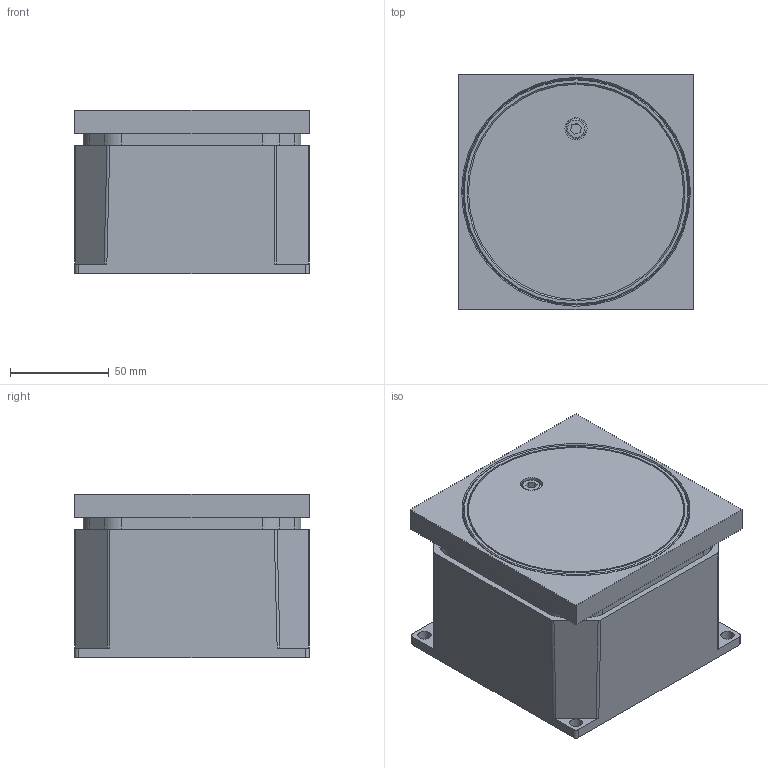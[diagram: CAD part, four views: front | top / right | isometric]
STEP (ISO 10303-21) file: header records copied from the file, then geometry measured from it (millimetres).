
FILE_DESCRIPTION(/* description */ (''),/* implementation_level */ '2;1');
FILE_NAME(/* name */ 'Fonto 4970W_geschlossen.stp',/* time_stamp */ '2023-11-07T08:56:09+01:00',/* author */ ('stangass'),/* organization */ (''),/* preprocessor_version */ 'ST-DEVELOPER v19.2',/* originating_system */ 'Autodesk Inventor 2023',/* authorisation */ '');
FILE_SCHEMA (('AUTOMOTIVE_DESIGN { 1 0 10303 214 3 1 1 }'));
Products named in the file (20): 1938993_3DINV; 1837450_3DINV; DIN 6799 - 8; 2241441_3DINV; DIN 7984 - M8 x 50; O_RING.118X2,5MM; 1938992_3DINV; DIN 562 - M6; 2040010_3DINV; DIN 125-1 - B 5,3; DIN 127 - A 5; DIN 912 - M5 x 8; #27448; DIN 912 - M3 x 6; 1939004_3DINV; 1939019_3DINV; DIN 705 - B6; DIN 912 - M6 x 60; 204009_3DINV; 2241439_3DINV
Assembly tree (33 placements, depth 2):
  1938993_3DINV
    1837450_3DINV
    DIN 6799 - 8  x4
    2241441_3DINV
    DIN 7984 - M8 x 50  x4
    O_RING.118X2,5MM
    1938992_3DINV
    DIN 562 - M6
    2040010_3DINV
    DIN 912 - M5 x 8  x3
    DIN 912 - M3 x 6  x5
    #27448  x3
    DIN 125-1 - B 5,3
    DIN 127 - A 5
    1939004_3DINV
    1939019_3DINV
    DIN 705 - B6
    DIN 912 - M6 x 60
    204009_3DINV
    2241439_3DINV
Bounding box: 119 x 119 x 83 mm (x, y, z)
Volume: 472259.2 mm3; surface area: 218802.8 mm2
Topology: 33 solids, 33 shells, 1002 faces, 2511 edges, 1599 vertices
Faces by surface type: plane 411, cylinder 376, bspline 82, cone 66, torus 53, sphere 14
Full cylindrical faces by diameter (mm): 1.25 x8, 1.5 x1, 2.459 x4, 2.8 x8, 3 x5, 3.1 x4, 3.683 x3, 4.134 x3, 4.394 x3, 4.521 x3, 4.917 x1, 5 x5, 5.2 x2, 5.207 x3, 5.3 x1, 5.5 x5, 6 x11, 6.647 x8, 7 x2, 8 x4, 8.5 x3, 10 x2, 11.2 x1, 12 x1, 13 x4, 13.1 x4, 22.835 x2, 49 x1, 89 x1, 89.5 x1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
Entity records: 27362 total; most frequent: CARTESIAN_POINT 8529, DIRECTION 3979, ORIENTED_EDGE 3666, EDGE_CURVE 1833, AXIS2_PLACEMENT_3D 1540, VERTEX_POINT 1169, LINE 899, VECTOR 899
